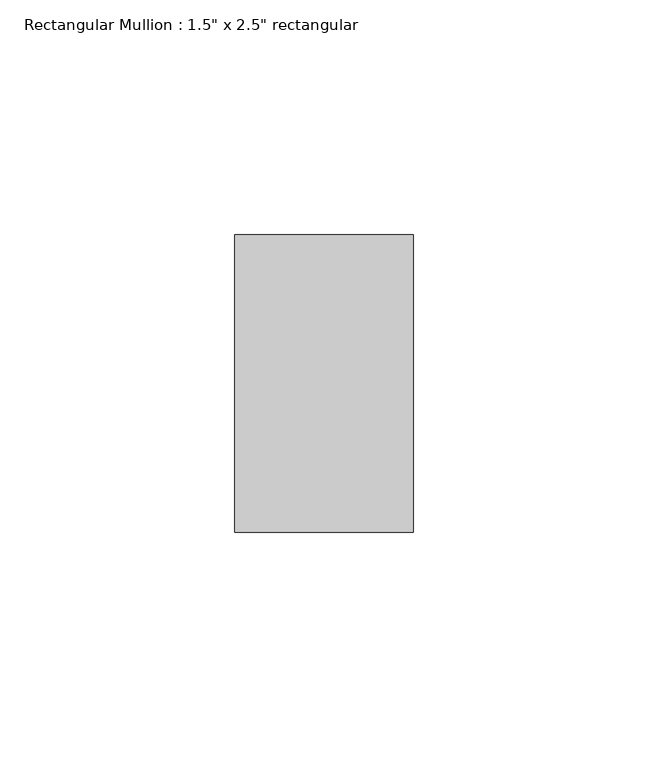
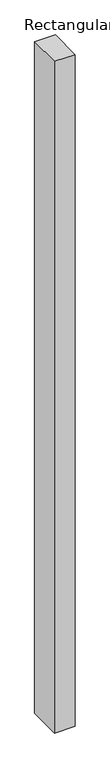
"""IFC4 building model written with IfcOpenShell, lengths in millimetres: member geometry."""

from ifc_helpers import new_model, si_unit, frame, origin, place, context, project, spatial, polyline, outline, extrude, source, transform, mapped, element, save


def member_f6a0a9c4(model_context):
    return source(origin(), model_context, "Body", "SweptSolid", [
        extrude(outline(polyline([(0.0, 31.75), (0.0, -31.75), (-38.1, -31.75), (-38.1, 31.75), (0.0, 31.75)])), frame((0.0, 0.0, -1310.8476318), z_axis=(0.0, 0.0, 1.0), x_axis=(1.0, 0.0, 0.0)), (0.0, 0.0, 1.0), 1310.8476318),
    ])


if __name__ == "__main__":
    model = new_model("IFC4")
    model_context = context("Model", 3, world=origin())
    ifc_project = project(units=[si_unit("LENGTHUNIT", "METRE", prefix="MILLI")], contexts=[model_context])
    site = spatial("IfcSite", under=ifc_project)
    building = spatial("IfcBuilding", under=site)
    placement = place(None, origin())
    member_shape = member_f6a0a9c4(model_context)
    element("IfcMember", 1, ObjectType="Rectangular Mullion : 1.5\" x 2.5\" rectangular", at=placement, inside=building, context=model_context, shape_type="MappedRepresentation", body=[
        mapped(member_shape, transform((0.0, 0.0, 0.0), x_axis=(1.0, 0.0, 0.0), y_axis=(0.0, 1.0, 0.0), z_axis=(0.0, 0.0, 1.0))),
    ])
    save(model, "model.ifc")
